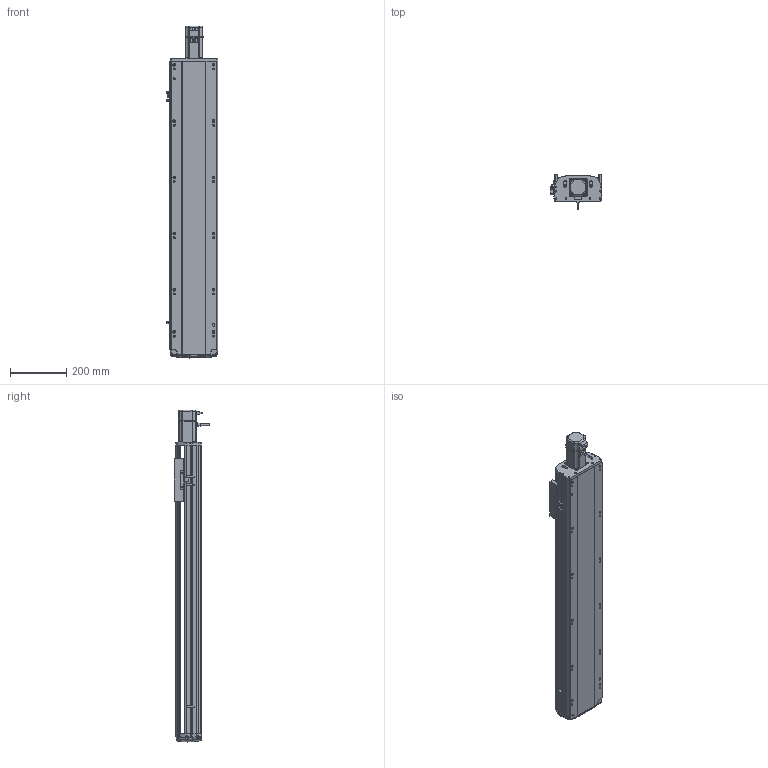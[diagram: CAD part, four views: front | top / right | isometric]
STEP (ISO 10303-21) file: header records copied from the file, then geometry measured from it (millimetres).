
FILE_DESCRIPTION (( 'STEP AP214' ), '1' );
FILE_NAME ('RTH17-XX-800-E-M40-C4（方程式）.STEP', '2025-10-24T05:42:15', ( '' ), ( '' ), 'SwSTEP 2.0', 'SolidWorks 2018', '' );
FILE_SCHEMA (( 'AUTOMOTIVE_DESIGN' ));
Length unit declared in the file: millimetre
Products named in the file (9): N_RTH17-GY-001P^RTH17-XX-XX-E-M40-C4（方程式）; RTH17-XX-800-E-M40-C4（方程式）; N_RTH17-E-004丝杆螺母连接座^RTH17-XX-XX-E-M40-C4（方程式）; N_M40^RTH17-XX-XX-E-M40-C4（方程式）; N_OMRON EE-SX672 換覜ん^RTH17-XX-XX-E-M40-C4ㄗ源最宒ㄘ; N_RTH17-E-008-P40电机板^RTH17-XX-XX-E-M40-C4（方程式）; N_RTH17-E-011底座^RTH17-XX-XX-E-M40-C4（方程式）; N_RTH17-E-007上盖^RTH17-XX-XX-E-M40-C4（方程式）; N_RTH-BL-012 感应片(外置)^RTH17-XX-XX-E-M40-C4（方程式）
Assembly tree (10 placements, depth 2):
  RTH17-XX-800-E-M40-C4（方程式）
    N_RTH17-E-011底座^RTH17-XX-XX-E-M40-C4（方程式）
    N_RTH17-E-007上盖^RTH17-XX-XX-E-M40-C4（方程式）
    N_RTH17-E-008-P40电机板^RTH17-XX-XX-E-M40-C4（方程式）
    N_OMRON EE-SX672 換覜ん^RTH17-XX-XX-E-M40-C4ㄗ源最宒ㄘ  x3
    N_RTH-BL-012 感应片(外置)^RTH17-XX-XX-E-M40-C4（方程式）
    N_RTH17-E-004丝杆螺母连接座^RTH17-XX-XX-E-M40-C4（方程式）
    N_RTH17-GY-001P^RTH17-XX-XX-E-M40-C4（方程式）
    N_M40^RTH17-XX-XX-E-M40-C4（方程式）
Bounding box: 183.5 x 127 x 1180.69 mm (x, y, z)
Volume: 8459599.3 mm3; surface area: 1135237.4 mm2
Topology: 9 solids, 11 shells, 1681 faces, 4711 edges, 3074 vertices
Faces by surface type: plane 829, cylinder 485, bspline 330, cone 28, torus 9
Entity records: 49565 total; most frequent: CARTESIAN_POINT 19778, ORIENTED_EDGE 6446, DIRECTION 5355, EDGE_CURVE 3227, VERTEX_POINT 2110, VECTOR 1795, LINE 1795, AXIS2_PLACEMENT_3D 1780
